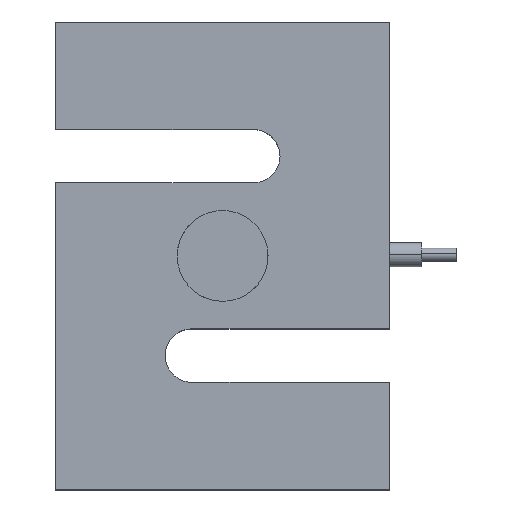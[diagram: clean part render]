
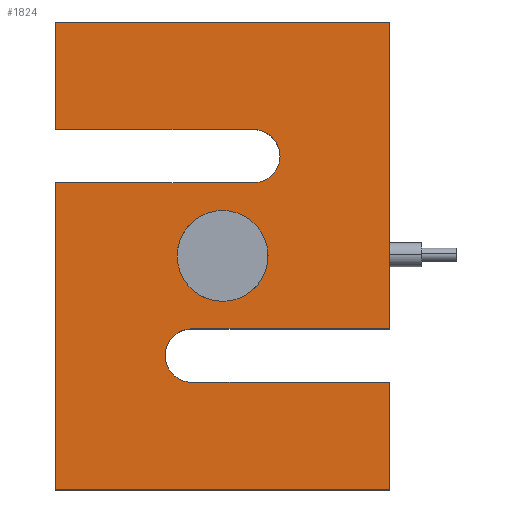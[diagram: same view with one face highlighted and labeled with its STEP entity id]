
A CAD part, top view. The second image highlights one B-rep face of the part: STEP entity #1824.
In plain terms, the highlighted planar face has unit normal (0, 0, 1).
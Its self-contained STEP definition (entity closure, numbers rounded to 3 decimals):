
#4 = DIRECTION ( 'NONE',  ( 0., -1., 0. ) ) ;
#8 = LINE ( 'NONE', #21, #1105 ) ;
#18 = DIRECTION ( 'NONE',  ( -1., 0., 0. ) ) ;
#19 = CARTESIAN_POINT ( 'NONE',  ( 70.64, 142.524, 100.749 ) ) ;
#21 = CARTESIAN_POINT ( 'NONE',  ( -54.36, 142.524, 100.749 ) ) ;
#26 = LINE ( 'NONE', #19, #1106 ) ;
#37 = DIRECTION ( 'NONE',  ( -1., 0., 0. ) ) ;
#38 = DIRECTION ( 'NONE',  ( 0., 0., -1. ) ) ;
#39 = CARTESIAN_POINT ( 'NONE',  ( -3.36, 17.724, 100.749 ) ) ;
#188 = FACE_OUTER_BOUND ( 'NONE', #809, .T. ) ;
#202 = FACE_BOUND ( 'NONE', #790, .T. ) ;
#204 = PLANE ( 'NONE',  #522 ) ;
#213 = CARTESIAN_POINT ( 'NONE',  ( 19.64, 92.324, 100.749 ) ) ;
#214 = DIRECTION ( 'NONE',  ( 0., 0., -1. ) ) ;
#215 = DIRECTION ( 'NONE',  ( -1., 0., 0. ) ) ;
#522 = AXIS2_PLACEMENT_3D ( 'NONE', #213, #214, #215 ) ;
#643 = AXIS2_PLACEMENT_3D ( 'NONE', #1774, #1775, #1776 ) ;
#645 = CIRCLE ( 'NONE', #643, 17. ) ;
#648 = VECTOR ( 'NONE', #1767, 1000. ) ;
#666 = AXIS2_PLACEMENT_3D ( 'NONE', #1726, #1727, #1728 ) ;
#669 = CIRCLE ( 'NONE', #666, 10. ) ;
#672 = VECTOR ( 'NONE', #1741, 1000. ) ;
#676 = VECTOR ( 'NONE', #1712, 1000. ) ;
#729 = CARTESIAN_POINT ( 'NONE',  ( 70.64, 27.724, 100.749 ) ) ;
#755 = VERTEX_POINT ( 'NONE', #729 ) ;
#790 = EDGE_LOOP ( 'NONE', ( #1338, #920 ) ) ;
#809 = EDGE_LOOP ( 'NONE', ( #919, #1400, #1397, #890, #888, #896, #891, #1321, #1320, #1395, #1358, #1353, #1359 ) ) ;
#888 = ORIENTED_EDGE ( 'NONE', *, *, #1532, .T. ) ;
#890 = ORIENTED_EDGE ( 'NONE', *, *, #1526, .T. ) ;
#891 = ORIENTED_EDGE ( 'NONE', *, *, #1541, .T. ) ;
#896 = ORIENTED_EDGE ( 'NONE', *, *, #1537, .T. ) ;
#919 = ORIENTED_EDGE ( 'NONE', *, *, #1500, .T. ) ;
#920 = ORIENTED_EDGE ( 'NONE', *, *, #1523, .T. ) ;
#938 = CARTESIAN_POINT ( 'NONE',  ( -54.36, 102.324, 100.749 ) ) ;
#970 = CARTESIAN_POINT ( 'NONE',  ( -3.36, 7.724, 100.749 ) ) ;
#1017 = CARTESIAN_POINT ( 'NONE',  ( 70.64, 142.524, 100.749 ) ) ;
#1020 = CARTESIAN_POINT ( 'NONE',  ( -8.86, 55.024, 100.749 ) ) ;
#1023 = CARTESIAN_POINT ( 'NONE',  ( -13.36, 17.724, 100.749 ) ) ;
#1026 = CARTESIAN_POINT ( 'NONE',  ( -54.36, -32.476, 100.749 ) ) ;
#1028 = CARTESIAN_POINT ( 'NONE',  ( -54.36, 82.324, 100.749 ) ) ;
#1029 = CARTESIAN_POINT ( 'NONE',  ( 19.64, 102.324, 100.749 ) ) ;
#1030 = CARTESIAN_POINT ( 'NONE',  ( -3.36, 27.724, 100.749 ) ) ;
#1039 = CARTESIAN_POINT ( 'NONE',  ( 70.64, -32.476, 100.749 ) ) ;
#1041 = CARTESIAN_POINT ( 'NONE',  ( -54.36, 142.524, 100.749 ) ) ;
#1046 = CARTESIAN_POINT ( 'NONE',  ( 19.64, 82.324, 100.749 ) ) ;
#1048 = CARTESIAN_POINT ( 'NONE',  ( 25.14, 55.024, 100.749 ) ) ;
#1066 = CARTESIAN_POINT ( 'NONE',  ( 70.64, 7.724, 100.749 ) ) ;
#1077 = AXIS2_PLACEMENT_3D ( 'NONE', #1621, #1622, #1623 ) ;
#1095 = VECTOR ( 'NONE', #1593, 1000. ) ;
#1096 = AXIS2_PLACEMENT_3D ( 'NONE', #1628, #1629, #1630 ) ;
#1105 = VECTOR ( 'NONE', #4, 1000. ) ;
#1106 = VECTOR ( 'NONE', #18, 1000. ) ;
#1116 = AXIS2_PLACEMENT_3D ( 'NONE', #39, #38, #37 ) ;
#1125 = CIRCLE ( 'NONE', #1116, 10. ) ;
#1130 = VECTOR ( 'NONE', #1648, 1000. ) ;
#1155 = VECTOR ( 'NONE', #1664, 1000. ) ;
#1163 = VECTOR ( 'NONE', #1677, 1000. ) ;
#1192 = VECTOR ( 'NONE', #1688, 1000. ) ;
#1200 = CIRCLE ( 'NONE', #1077, 17. ) ;
#1235 = CIRCLE ( 'NONE', #1096, 10. ) ;
#1320 = ORIENTED_EDGE ( 'NONE', *, *, #1553, .T. ) ;
#1321 = ORIENTED_EDGE ( 'NONE', *, *, #1545, .T. ) ;
#1338 = ORIENTED_EDGE ( 'NONE', *, *, #1573, .T. ) ;
#1353 = ORIENTED_EDGE ( 'NONE', *, *, #1571, .T. ) ;
#1358 = ORIENTED_EDGE ( 'NONE', *, *, #1493, .T. ) ;
#1359 = ORIENTED_EDGE ( 'NONE', *, *, #1563, .T. ) ;
#1391 = VERTEX_POINT ( 'NONE', #1066 ) ;
#1394 = VERTEX_POINT ( 'NONE', #970 ) ;
#1395 = ORIENTED_EDGE ( 'NONE', *, *, #1558, .T. ) ;
#1396 = VERTEX_POINT ( 'NONE', #938 ) ;
#1397 = ORIENTED_EDGE ( 'NONE', *, *, #1513, .T. ) ;
#1400 = ORIENTED_EDGE ( 'NONE', *, *, #1505, .T. ) ;
#1411 = VERTEX_POINT ( 'NONE', #1048 ) ;
#1417 = VERTEX_POINT ( 'NONE', #1046 ) ;
#1418 = VERTEX_POINT ( 'NONE', #1041 ) ;
#1428 = VERTEX_POINT ( 'NONE', #1039 ) ;
#1431 = VERTEX_POINT ( 'NONE', #1030 ) ;
#1432 = VERTEX_POINT ( 'NONE', #1029 ) ;
#1433 = VERTEX_POINT ( 'NONE', #1028 ) ;
#1435 = VERTEX_POINT ( 'NONE', #1026 ) ;
#1438 = VERTEX_POINT ( 'NONE', #1023 ) ;
#1441 = VERTEX_POINT ( 'NONE', #1020 ) ;
#1444 = VERTEX_POINT ( 'NONE', #1017 ) ;
#1493 = EDGE_CURVE ( 'NONE', #1438, #1431, #1125, .T. ) ;
#1500 = EDGE_CURVE ( 'NONE', #1444, #1418, #26, .T. ) ;
#1505 = EDGE_CURVE ( 'NONE', #1418, #1396, #8, .T. ) ;
#1513 = EDGE_CURVE ( 'NONE', #1396, #1432, #1589, .T. ) ;
#1523 = EDGE_CURVE ( 'NONE', #1411, #1441, #1200, .T. ) ;
#1526 = EDGE_CURVE ( 'NONE', #1432, #1417, #1235, .T. ) ;
#1532 = EDGE_CURVE ( 'NONE', #1417, #1433, #1646, .T. ) ;
#1537 = EDGE_CURVE ( 'NONE', #1433, #1435, #1662, .T. ) ;
#1541 = EDGE_CURVE ( 'NONE', #1435, #1428, #1673, .T. ) ;
#1545 = EDGE_CURVE ( 'NONE', #1428, #1391, #1679, .T. ) ;
#1553 = EDGE_CURVE ( 'NONE', #1391, #1394, #1703, .T. ) ;
#1558 = EDGE_CURVE ( 'NONE', #1394, #1438, #669, .T. ) ;
#1563 = EDGE_CURVE ( 'NONE', #755, #1444, #1737, .T. ) ;
#1571 = EDGE_CURVE ( 'NONE', #1431, #755, #1757, .T. ) ;
#1573 = EDGE_CURVE ( 'NONE', #1441, #1411, #645, .T. ) ;
#1584 = CARTESIAN_POINT ( 'NONE',  ( -54.36, 102.324, 100.749 ) ) ;
#1589 = LINE ( 'NONE', #1584, #1095 ) ;
#1593 = DIRECTION ( 'NONE',  ( 1., 0., 0. ) ) ;
#1621 = CARTESIAN_POINT ( 'NONE',  ( 8.14, 55.024, 100.749 ) ) ;
#1622 = DIRECTION ( 'NONE',  ( 0., 0., -1. ) ) ;
#1623 = DIRECTION ( 'NONE',  ( -1., 0., 0. ) ) ;
#1628 = CARTESIAN_POINT ( 'NONE',  ( 19.64, 92.324, 100.749 ) ) ;
#1629 = DIRECTION ( 'NONE',  ( 0., 0., -1. ) ) ;
#1630 = DIRECTION ( 'NONE',  ( -1., 0., 0. ) ) ;
#1646 = LINE ( 'NONE', #1647, #1130 ) ;
#1647 = CARTESIAN_POINT ( 'NONE',  ( 19.64, 82.324, 100.749 ) ) ;
#1648 = DIRECTION ( 'NONE',  ( -1., 0., 0. ) ) ;
#1662 = LINE ( 'NONE', #1663, #1155 ) ;
#1663 = CARTESIAN_POINT ( 'NONE',  ( -54.36, 82.324, 100.749 ) ) ;
#1664 = DIRECTION ( 'NONE',  ( 0., -1., 0. ) ) ;
#1665 = CARTESIAN_POINT ( 'NONE',  ( -54.36, -32.476, 100.749 ) ) ;
#1672 = CARTESIAN_POINT ( 'NONE',  ( 70.64, -32.476, 100.749 ) ) ;
#1673 = LINE ( 'NONE', #1665, #1163 ) ;
#1677 = DIRECTION ( 'NONE',  ( 1., 0., 0. ) ) ;
#1679 = LINE ( 'NONE', #1672, #1192 ) ;
#1688 = DIRECTION ( 'NONE',  ( 0., 1., 0. ) ) ;
#1703 = LINE ( 'NONE', #1704, #676 ) ;
#1704 = CARTESIAN_POINT ( 'NONE',  ( 70.64, 7.724, 100.749 ) ) ;
#1712 = DIRECTION ( 'NONE',  ( -1., 0., 0. ) ) ;
#1726 = CARTESIAN_POINT ( 'NONE',  ( -3.36, 17.724, 100.749 ) ) ;
#1727 = DIRECTION ( 'NONE',  ( 0., 0., -1. ) ) ;
#1728 = DIRECTION ( 'NONE',  ( -1., 0., 0. ) ) ;
#1733 = CARTESIAN_POINT ( 'NONE',  ( 70.64, 27.724, 100.749 ) ) ;
#1737 = LINE ( 'NONE', #1733, #672 ) ;
#1741 = DIRECTION ( 'NONE',  ( 0., 1., 0. ) ) ;
#1757 = LINE ( 'NONE', #1758, #648 ) ;
#1758 = CARTESIAN_POINT ( 'NONE',  ( -3.36, 27.724, 100.749 ) ) ;
#1767 = DIRECTION ( 'NONE',  ( 1., 0., 0. ) ) ;
#1774 = CARTESIAN_POINT ( 'NONE',  ( 8.14, 55.024, 100.749 ) ) ;
#1775 = DIRECTION ( 'NONE',  ( 0., 0., -1. ) ) ;
#1776 = DIRECTION ( 'NONE',  ( -1., 0., 0. ) ) ;
#1824 = ADVANCED_FACE ( 'NONE', ( #202, #188 ), #204, .F. ) ;
